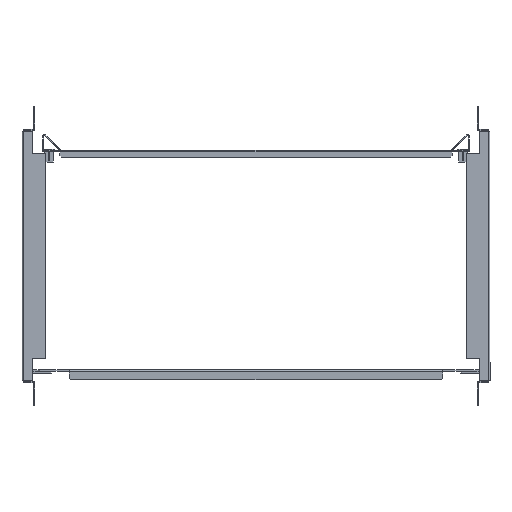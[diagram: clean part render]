
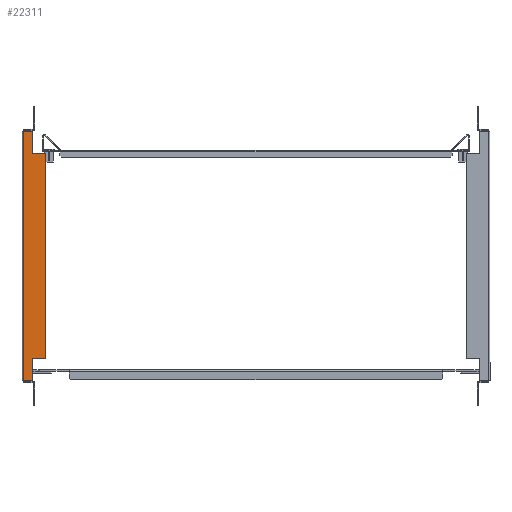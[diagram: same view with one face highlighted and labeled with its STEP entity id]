
A CAD part, front view. The second image highlights one B-rep face of the part: STEP entity #22311.
In plain terms, the highlighted planar face has unit normal (0, -1, 0).
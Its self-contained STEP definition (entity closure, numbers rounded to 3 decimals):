
#14681=CARTESIAN_POINT(' ',(140.399,-10.,0.6));
#14682=VERTEX_POINT(' ',#14681);
#14696=CARTESIAN_POINT(' ',(140.399,-10.,0.6));
#14701=DIRECTION(' ',(-1.,0.,0.));
#14706=VECTOR(' ',#14701,1.);
#14711=LINE('',#14696,#14706);
#14716=CARTESIAN_POINT(' ',(-140.399,-10.,0.6));
#14717=VERTEX_POINT(' ',#14716);
#14721=EDGE_CURVE(' ',#14682,#14717,#14711,.T.);
#21871=DIRECTION(' ',(0.,-1.,0.));
#21876=CARTESIAN_POINT(' ',(-140.399,-10.,0.6));
#21881=DIRECTION(' ',(1.,0.,0.));
#21886=AXIS2_PLACEMENT_3D(' ',#21876,#21871,#21881);
#21891=PLANE('NONE',#21886);
#21896=CARTESIAN_POINT(' ',(-138.899,-10.,10.));
#21901=DIRECTION(' ',(1.,0.,0.));
#21906=VECTOR(' ',#21901,1.);
#21911=LINE('',#21896,#21906);
#21916=CARTESIAN_POINT(' ',(-138.899,-10.,10.));
#21917=VERTEX_POINT(' ',#21916);
#21921=CARTESIAN_POINT(' ',(-114.999,-10.,10.));
#21922=VERTEX_POINT(' ',#21921);
#21926=EDGE_CURVE(' ',#21917,#21922,#21911,.T.);
#21931=ORIENTED_EDGE(' ',*,*,#21926,.F.);
#21936=CARTESIAN_POINT(' ',(-138.899,-10.,8.5));
#21941=DIRECTION(' ',(0.,-1.,0.));
#21946=DIRECTION(' ',(0.,0.,1.));
#21951=AXIS2_PLACEMENT_3D(' ',#21936,#21941,#21946);
#21956=CIRCLE('',#21951,1.5);
#21961=CARTESIAN_POINT(' ',(-140.399,-10.,8.5));
#21962=VERTEX_POINT(' ',#21961);
#21966=EDGE_CURVE(' ',#21917,#21962,#21956,.T.);
#21971=ORIENTED_EDGE(' ',*,*,#21966,.T.);
#21976=CARTESIAN_POINT(' ',(-140.399,-10.,0.6));
#21981=DIRECTION(' ',(0.,0.,1.));
#21986=VECTOR(' ',#21981,1.);
#21991=LINE('',#21976,#21986);
#21996=EDGE_CURVE(' ',#14717,#21962,#21991,.T.);
#22001=ORIENTED_EDGE(' ',*,*,#21996,.F.);
#22006=ORIENTED_EDGE(' ',*,*,#14721,.F.);
#22011=CARTESIAN_POINT(' ',(140.399,-10.,0.6));
#22016=DIRECTION(' ',(0.,0.,1.));
#22021=VECTOR(' ',#22016,1.);
#22026=LINE('',#22011,#22021);
#22031=CARTESIAN_POINT(' ',(140.399,-10.,8.5));
#22032=VERTEX_POINT(' ',#22031);
#22036=EDGE_CURVE(' ',#14682,#22032,#22026,.T.);
#22041=ORIENTED_EDGE(' ',*,*,#22036,.T.);
#22046=CARTESIAN_POINT(' ',(138.9,-10.,8.501));
#22051=DIRECTION(' ',(0.,-1.,0.));
#22056=DIRECTION(' ',(1.,0.,0.));
#22061=AXIS2_PLACEMENT_3D(' ',#22046,#22051,#22056);
#22066=CIRCLE('',#22061,1.499);
#22071=CARTESIAN_POINT(' ',(138.899,-10.,10.));
#22072=VERTEX_POINT(' ',#22071);
#22076=EDGE_CURVE(' ',#22032,#22072,#22066,.T.);
#22081=ORIENTED_EDGE(' ',*,*,#22076,.T.);
#22086=CARTESIAN_POINT(' ',(138.899,-10.,10.));
#22091=DIRECTION(' ',(-1.,0.,0.));
#22096=VECTOR(' ',#22091,1.);
#22101=LINE('',#22086,#22096);
#22106=CARTESIAN_POINT(' ',(114.999,-10.,10.));
#22107=VERTEX_POINT(' ',#22106);
#22111=EDGE_CURVE(' ',#22072,#22107,#22101,.T.);
#22116=ORIENTED_EDGE(' ',*,*,#22111,.T.);
#22121=CARTESIAN_POINT(' ',(114.999,-10.,10.));
#22126=DIRECTION(' ',(0.,0.,1.));
#22131=VECTOR(' ',#22126,1.);
#22136=LINE('',#22121,#22131);
#22141=CARTESIAN_POINT(' ',(114.999,-10.,23.5));
#22142=VERTEX_POINT(' ',#22141);
#22146=EDGE_CURVE(' ',#22107,#22142,#22136,.T.);
#22151=ORIENTED_EDGE(' ',*,*,#22146,.T.);
#22156=CARTESIAN_POINT(' ',(113.5,-10.,23.501));
#22161=DIRECTION(' ',(0.,-1.,0.));
#22166=DIRECTION(' ',(1.,0.,0.));
#22171=AXIS2_PLACEMENT_3D(' ',#22156,#22161,#22166);
#22176=CIRCLE('',#22171,1.499);
#22181=CARTESIAN_POINT(' ',(113.499,-10.,25.));
#22182=VERTEX_POINT(' ',#22181);
#22186=EDGE_CURVE(' ',#22142,#22182,#22176,.T.);
#22191=ORIENTED_EDGE(' ',*,*,#22186,.T.);
#22196=CARTESIAN_POINT(' ',(113.499,-10.,25.));
#22201=DIRECTION(' ',(-1.,0.,0.));
#22206=VECTOR(' ',#22201,1.);
#22211=LINE('',#22196,#22206);
#22216=CARTESIAN_POINT(' ',(-113.499,-10.,25.));
#22217=VERTEX_POINT(' ',#22216);
#22221=EDGE_CURVE(' ',#22182,#22217,#22211,.T.);
#22226=ORIENTED_EDGE(' ',*,*,#22221,.T.);
#22231=CARTESIAN_POINT(' ',(-113.499,-10.,23.5));
#22236=DIRECTION(' ',(0.,-1.,0.));
#22241=DIRECTION(' ',(0.,0.,1.));
#22246=AXIS2_PLACEMENT_3D(' ',#22231,#22236,#22241);
#22251=CIRCLE('',#22246,1.5);
#22256=CARTESIAN_POINT(' ',(-114.999,-10.,23.5));
#22257=VERTEX_POINT(' ',#22256);
#22261=EDGE_CURVE(' ',#22217,#22257,#22251,.T.);
#22266=ORIENTED_EDGE(' ',*,*,#22261,.T.);
#22271=CARTESIAN_POINT(' ',(-114.999,-10.,10.));
#22276=DIRECTION(' ',(0.,0.,1.));
#22281=VECTOR(' ',#22276,1.);
#22286=LINE('',#22271,#22281);
#22291=EDGE_CURVE(' ',#21922,#22257,#22286,.T.);
#22296=ORIENTED_EDGE(' ',*,*,#22291,.F.);
#22301=EDGE_LOOP(' ',(#21931,#21971,#22001,#22006,#22041,#22081,#22116,#22151,#22191,#22226,#22266,#22296));
#22306=FACE_OUTER_BOUND(' ',#22301,.T.);
#22311=ADVANCED_FACE('NONE',(#22306),#21891,.T.);
